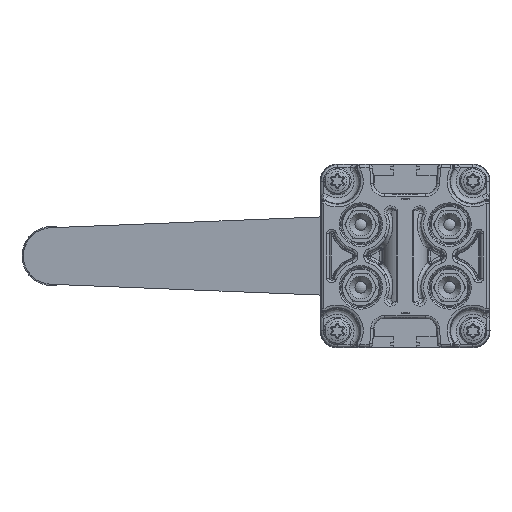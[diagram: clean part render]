
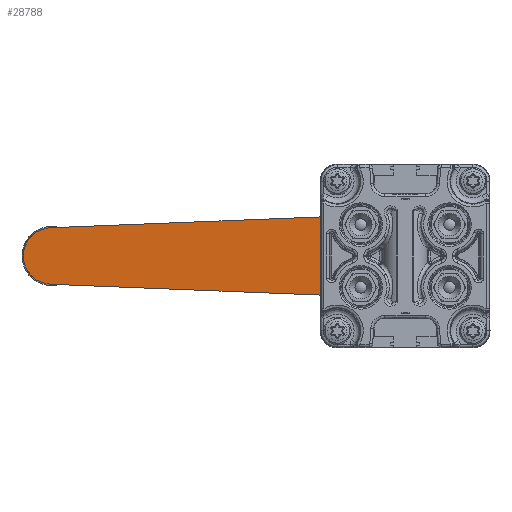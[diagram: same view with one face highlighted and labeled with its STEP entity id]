
A CAD part, left-side view. The second image highlights one B-rep face of the part: STEP entity #28788.
In plain terms, the highlighted planar face has unit normal (-0.997, 0.073, 0) as drawn and (0.997, 0.073, 0) by its records, which use the part's own axes.
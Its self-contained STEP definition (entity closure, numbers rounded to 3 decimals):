
#550=ELLIPSE('',#30663,15.04,15.);
#551=ELLIPSE('',#30664,10.027,10.);
#552=ELLIPSE('',#30665,12.784,12.75);
#2018=LINE('',#40184,#4053);
#2019=LINE('',#40188,#4054);
#4053=VECTOR('',#33263,1000.);
#4054=VECTOR('',#33266,1000.);
#6069=PLANE('',#30662);
#6955=ORIENTED_EDGE('',*,*,#15237,.T.);
#6956=ORIENTED_EDGE('',*,*,#15238,.T.);
#6957=ORIENTED_EDGE('',*,*,#15239,.T.);
#6958=ORIENTED_EDGE('',*,*,#15240,.T.);
#6959=ORIENTED_EDGE('',*,*,#15241,.F.);
#15237=EDGE_CURVE('',#19403,#19404,#550,.F.);
#15238=EDGE_CURVE('',#19404,#19405,#2018,.T.);
#15239=EDGE_CURVE('',#19405,#19406,#551,.F.);
#15240=EDGE_CURVE('',#19406,#19403,#2019,.T.);
#15241=EDGE_CURVE('',#19407,#19407,#552,.F.);
#19403=VERTEX_POINT('',#40182);
#19404=VERTEX_POINT('',#40183);
#19405=VERTEX_POINT('',#40185);
#19406=VERTEX_POINT('',#40187);
#19407=VERTEX_POINT('',#40190);
#23085=EDGE_LOOP('',(#6955,#6956,#6957,#6958));
#23086=EDGE_LOOP('',(#6959));
#25051=FACE_BOUND('',#23085,.T.);
#25052=FACE_BOUND('',#23086,.T.);
#28788=ADVANCED_FACE('',(#25051,#25052),#6069,.F.);
#30662=AXIS2_PLACEMENT_3D('',#40180,#33259,#33260);
#30663=AXIS2_PLACEMENT_3D('',#40181,#33261,#33262);
#30664=AXIS2_PLACEMENT_3D('',#40186,#33264,#33265);
#30665=AXIS2_PLACEMENT_3D('',#40189,#33267,#33268);
#33259=DIRECTION('',(-0.997,-0.073,0.));
#33260=DIRECTION('',(0.073,-0.997,0.));
#33261=DIRECTION('',(-0.997,-0.073,0.));
#33262=DIRECTION('',(-0.073,0.997,0.));
#33263=DIRECTION('',(-0.073,0.997,0.04));
#33264=DIRECTION('',(-0.997,-0.073,0.));
#33265=DIRECTION('',(-0.073,0.997,0.));
#33266=DIRECTION('',(0.073,-0.997,0.04));
#33267=DIRECTION('',(-0.997,-0.073,0.));
#33268=DIRECTION('',(-0.073,0.997,0.));
#40180=CARTESIAN_POINT('',(13.5,-15.6,57.9));
#40181=CARTESIAN_POINT('',(12.4,-0.6,0.));
#40182=CARTESIAN_POINT('',(12.356,0.,14.988));
#40183=CARTESIAN_POINT('',(12.356,0.,-14.988));
#40184=CARTESIAN_POINT('',(3.259,124.05,-10.022));
#40185=CARTESIAN_POINT('',(3.204,124.8,-9.992));
#40186=CARTESIAN_POINT('',(3.233,124.4,0.));
#40187=CARTESIAN_POINT('',(3.204,124.8,9.992));
#40188=CARTESIAN_POINT('',(12.362,-0.083,14.991));
#40189=CARTESIAN_POINT('',(12.4,-0.6,0.));
#40190=CARTESIAN_POINT('',(11.465,12.15,0.));
